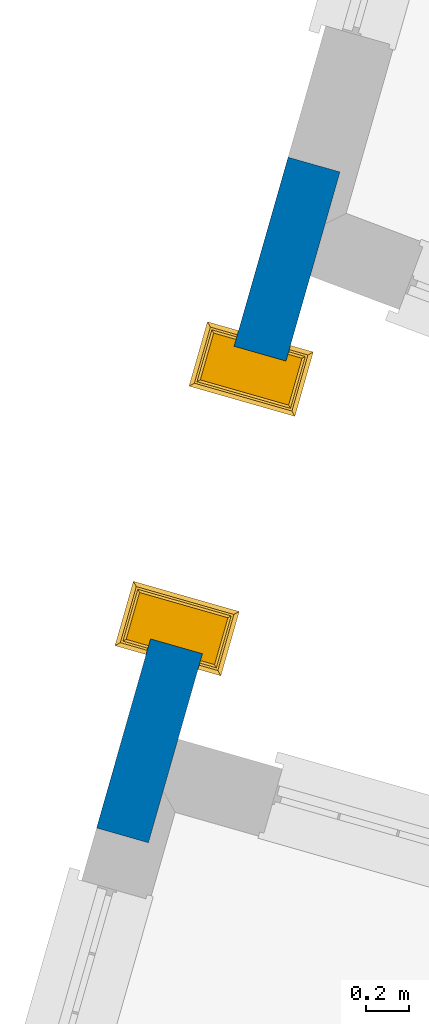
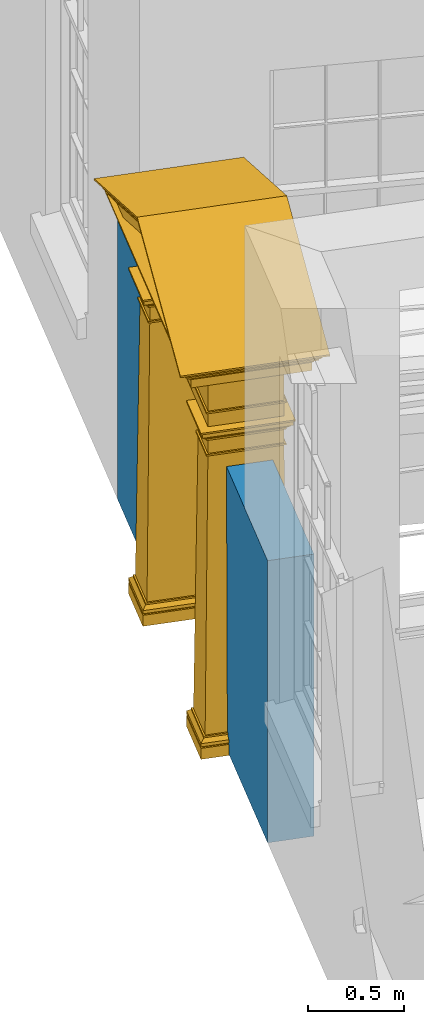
# One storey, part 4 of 6: 1 door, 1 wall, 1 opening.
"""IFC4 building model written with IfcOpenShell, lengths in metres."""

import ifcopenshell
import ifcopenshell.guid

model = None  # the IFC model being written
_history = None  # IfcOwnerHistory: only IFC2X3 demands one
_inside = {}  # id of a spatial element -> (the spatial element, [elements in it])
_under = {}  # id of a project, library or spatial element -> (it, [spatial elements below it])
_declared = {}  # id of a project -> (the project, [libraries it declares])
_typed = {}  # id of a type object -> (the type object, [elements of that type])
_made_of = {}  # id of a material, layer set ... -> (it, [elements and type objects made of it])


def new_model(schema):
    """Start an empty IFC model of exactly this schema.

    Asked for "IFC4X3", IfcOpenShell would pick the latest addendum, in which some entities
    have other attributes; the version numbers below select the first issue.
    IFC2X3 requires an IfcOwnerHistory on every rooted entity: one is made here for all.
    """
    global model, _history
    if schema == "IFC4X3":
        model = ifcopenshell.file(schema_version=(4, 3, 0, 0))
    else:
        model = ifcopenshell.file(schema=schema)
    _inside.clear()
    _under.clear()
    _declared.clear()
    _typed.clear()
    _made_of.clear()
    _history = None
    if model.schema == "IFC2X3":
        org = make("IfcOrganization", Name="unknown")
        user = make(
            "IfcPersonAndOrganization",
            ThePerson=make("IfcPerson", FamilyName="unknown"),
            TheOrganization=org,
        )
        app = make(
            "IfcApplication",
            ApplicationDeveloper=org,
            Version="unknown",
            ApplicationFullName="unknown",
            ApplicationIdentifier="unknown",
        )
        _history = make(
            "IfcOwnerHistory",
            OwningUser=user,
            OwningApplication=app,
            ChangeAction="ADDED",
            CreationDate=0,
        )
    return model


def make(cls, **values):
    """One entity of the class cls with the attributes given. An attribute that is None is left unset."""
    return model.create_entity(
        cls, **{name: value for name, value in values.items() if value is not None}
    )


def rooted(cls, **values):
    """An entity with a GlobalId (a new one), such as an element, a storey or a relation."""
    return make(cls, GlobalId=ifcopenshell.guid.new(), OwnerHistory=_history, **values)


def si_unit(unit_type, name, prefix=None):
    """IfcSIUnit, for example si_unit("LENGTHUNIT", "METRE", prefix="MILLI")."""
    return make("IfcSIUnit", UnitType=unit_type, Prefix=prefix, Name=name)


def assignment(units):
    """IfcUnitAssignment: the units of a project."""
    return None if units is None else make("IfcUnitAssignment", Units=units)


def point(xyz):
    """IfcCartesianPoint."""
    return None if xyz is None else make("IfcCartesianPoint", Coordinates=xyz)


def direction(xyz):
    """IfcDirection."""
    return None if xyz is None else make("IfcDirection", DirectionRatios=xyz)


def frame(location, z_axis=None, x_axis=None):
    """IfcAxis2Placement3D, a coordinate frame: its origin and axes. An axis left out is left unset."""
    return make(
        "IfcAxis2Placement3D",
        Location=point(location),
        Axis=direction(z_axis),
        RefDirection=direction(x_axis),
    )


def origin():
    """The frame at (0, 0, 0) with its axes left unset."""
    return frame((0.0, 0.0, 0.0))


def origin_with_axes():
    """The frame at (0, 0, 0) with the z axis (0, 0, 1) and the x axis (1, 0, 0) written out."""
    return frame((0.0, 0.0, 0.0), z_axis=(0.0, 0.0, 1.0), x_axis=(1.0, 0.0, 0.0))


def place(relative_to, where):
    """IfcLocalPlacement: puts the frame where relative to a parent placement (None: the world)."""
    return make(
        "IfcLocalPlacement", PlacementRelTo=relative_to, RelativePlacement=where
    )


def context(
    kind, dimensions, precision=None, world=None, true_north=None, identifier=None
):
    """IfcGeometricRepresentationContext, for example the 3D "Model" context."""
    return make(
        "IfcGeometricRepresentationContext",
        ContextIdentifier=identifier,
        ContextType=kind,
        CoordinateSpaceDimension=dimensions,
        Precision=precision,
        WorldCoordinateSystem=world,
        TrueNorth=true_north,
    )


def subcontext(parent, identifier, kind, view, scale=None):
    """IfcGeometricRepresentationSubContext, for example "Body" below "Model"."""
    return make(
        "IfcGeometricRepresentationSubContext",
        ContextIdentifier=identifier,
        ContextType=kind,
        ParentContext=parent,
        TargetScale=scale,
        TargetView=view,
    )


def project(units=None, contexts=None):
    """IfcProject with its units and contexts."""
    return rooted(
        "IfcProject",
        Name="project",
        RepresentationContexts=contexts,
        UnitsInContext=assignment(units),
    )


def spatial(cls, under=None, at=None, **own):
    """A site, building, storey or space (cls), placed at a placement, below another one or the project."""
    s = rooted(cls, ObjectPlacement=at, **own)
    if under is not None:
        _under.setdefault(under.id(), (under, []))[1].append(s)
    return s


def polyline(points):
    """IfcPolyline through the points."""
    return make("IfcPolyline", Points=[point(p) for p in points])


def outline(outer, holes=None, kind="AREA"):
    """IfcArbitraryClosedProfileDef: a profile drawn as a closed curve; with holes, ...WithVoids."""
    if holes is None:
        return make("IfcArbitraryClosedProfileDef", ProfileType=kind, OuterCurve=outer)
    return make(
        "IfcArbitraryProfileDefWithVoids",
        ProfileType=kind,
        OuterCurve=outer,
        InnerCurves=holes,
    )


def extrude(swept, where, along, depth):
    """IfcExtrudedAreaSolid: the profile swept, set in the frame where, extruded along a direction by depth."""
    return make(
        "IfcExtrudedAreaSolid",
        SweptArea=swept,
        Position=where,
        ExtrudedDirection=direction(along),
        Depth=depth,
    )


def faces_of(points, faces, orient=None, outer=None):
    """IfcFace entities. A face is a list of loops; a loop is a list of indices into points, from 0.

    orient and outer hold one flag for each loop. By default every Orientation is true, the
    first loop of a face is its IfcFaceOuterBound and the others are IfcFaceBound.
    """
    made = []
    for i, loops in enumerate(faces):
        bounds = []
        for j, loop in enumerate(loops):
            is_outer = j == 0 if outer is None else outer[i][j]
            bounds.append(
                make(
                    "IfcFaceOuterBound" if is_outer else "IfcFaceBound",
                    Bound=make("IfcPolyLoop", Polygon=[points[k] for k in loop]),
                    Orientation=True if orient is None else orient[i][j],
                )
            )
        made.append(make("IfcFace", Bounds=bounds))
    return made


def faceted_brep(points, faces, orient=None, outer=None, voids=None):
    """IfcFacetedBrep: a solid bounded by flat faces; with voids (closed shells), ...WithVoids."""
    shared = [point(p) for p in points]
    hull = make("IfcClosedShell", CfsFaces=faces_of(shared, faces, orient, outer))
    if voids is None:
        return make("IfcFacetedBrep", Outer=hull)
    return make(
        "IfcFacetedBrepWithVoids",
        Outer=hull,
        Voids=[
            make(cls, CfsFaces=faces_of(shared, fs, o, b)) for cls, fs, o, b in voids
        ],
    )


def shape(context_of_items, identifier, shape_type, items):
    """IfcShapeRepresentation: the items that make up one representation, for example the "Body"."""
    return make(
        "IfcShapeRepresentation",
        ContextOfItems=context_of_items,
        RepresentationIdentifier=identifier,
        RepresentationType=shape_type,
        Items=items,
    )


def source(mapping_origin, context_of_items, identifier, shape_type, items):
    """IfcRepresentationMap: a shape defined once, which mapped items show again and again."""
    return make(
        "IfcRepresentationMap",
        MappingOrigin=mapping_origin,
        MappedRepresentation=shape(context_of_items, identifier, shape_type, items),
    )


def transform(
    local_origin,
    x_axis=None,
    y_axis=None,
    z_axis=None,
    scale=None,
    scale2=None,
    scale3=None,
    uniform=True,
):
    """IfcCartesianTransformationOperator3D, or its non-uniform kind. x_axis, y_axis, z_axis: its Axis1, 2, 3."""
    if uniform:
        return make(
            "IfcCartesianTransformationOperator3D",
            Axis1=direction(x_axis),
            Axis2=direction(y_axis),
            LocalOrigin=point(local_origin),
            Scale=scale,
            Axis3=direction(z_axis),
        )
    return make(
        "IfcCartesianTransformationOperator3DnonUniform",
        Axis1=direction(x_axis),
        Axis2=direction(y_axis),
        LocalOrigin=point(local_origin),
        Scale=scale,
        Axis3=direction(z_axis),
        Scale2=scale2,
        Scale3=scale3,
    )


def mapped(mapping_source, mapping_target):
    """IfcMappedItem: shows the shape of a source again, moved by a transform."""
    return make(
        "IfcMappedItem", MappingSource=mapping_source, MappingTarget=mapping_target
    )


def material(Name=None, Category=None):
    """IfcMaterial."""
    return make("IfcMaterial", Name=Name, Category=Category)


def layer(
    of_material, thickness, ventilated=None, Name=None, Category=None, Priority=None
):
    """IfcMaterialLayer: one layer of a wall or slab, of a material (None: an air gap)."""
    return make(
        "IfcMaterialLayer",
        Material=of_material,
        LayerThickness=thickness,
        IsVentilated=ventilated,
        Name=Name,
        Category=Category,
        Priority=Priority,
    )


def layer_set(layers, Name=None):
    """IfcMaterialLayerSet."""
    return make("IfcMaterialLayerSet", MaterialLayers=layers, LayerSetName=Name)


def layer_usage(for_layer_set, set_direction, sense, offset, extent=None):
    """IfcMaterialLayerSetUsage: how a layer set lies in its element."""
    return make(
        "IfcMaterialLayerSetUsage",
        ForLayerSet=for_layer_set,
        LayerSetDirection=set_direction,
        DirectionSense=sense,
        OffsetFromReferenceLine=offset,
        ReferenceExtent=extent,
    )


def made_of(thing, what):
    """Note that an element or type object is made of a material, layer set ...; save() writes the relation."""
    if what is not None:
        _made_of.setdefault(what.id(), (what, []))[1].append(thing)
    return thing


def type_object(cls, material=None, **own):
    """A type object (cls), such as IfcWallType, which elements share."""
    return made_of(rooted(cls, **own), material)


def type_shapes(of_type, sources):
    """Give a type object the sources (RepresentationMaps) that its elements show as mapped items."""
    of_type.RepresentationMaps = sources


def element(
    cls,
    number,
    at=None,
    inside=None,
    cuts=None,
    type_object=None,
    material=None,
    context=None,
    identifier="Body",
    shape_type=None,
    held_by="IfcProductDefinitionShape",
    body=None,
    shapes=None,
    **own,
):
    """One element of the class cls, such as IfcWall. Its Tag is "e" and its number.

    at: its placement. inside: the storey or other place that contains it. cuts: it is an
    opening in that element (IfcRelVoidsElement). A single representation is given by context,
    identifier, shape_type and body (its items); several are given by shapes. held_by: the class
    of the entity that holds the representations. save() writes the other relations.
    """
    e = rooted(cls, Tag="e%d" % number, ObjectPlacement=at, **own)
    if body is not None:
        shapes = [shape(context, identifier, shape_type, body)]
    if shapes is not None:
        e.Representation = make(held_by, Representations=shapes)
    if inside is not None:
        _inside.setdefault(inside.id(), (inside, []))[1].append(e)
    if cuts is not None:
        rooted(
            "IfcRelVoidsElement", RelatingBuildingElement=cuts, RelatedOpeningElement=e
        )
    if type_object is not None:
        _typed.setdefault(type_object.id(), (type_object, []))[1].append(e)
    return made_of(e, material)


def fill(opening, filler):
    """IfcRelFillsElement: the door or window that sits in an opening."""
    return rooted(
        "IfcRelFillsElement",
        RelatingOpeningElement=opening,
        RelatedBuildingElement=filler,
    )


def aggregate(whole, parts):
    """IfcRelAggregates: a whole, such as a stair, and the parts it consists of."""
    return rooted("IfcRelAggregates", RelatingObject=whole, RelatedObjects=parts)


def save(model, path):
    """Write the relations noted so far, then the file.

    IfcRelAggregates (storeys below a building ...), IfcRelContainedInSpatialStructure (elements
    in a storey), IfcRelDefinesByType, IfcRelAssociatesMaterial and IfcRelDeclares: one each for
    every whole, place, type object, material and project.
    """
    for whole, parts in _under.values():
        aggregate(whole, parts)
    for where, things in _inside.values():
        rooted(
            "IfcRelContainedInSpatialStructure",
            RelatedElements=things,
            RelatingStructure=where,
        )
    for kind, things in _typed.values():
        rooted("IfcRelDefinesByType", RelatedObjects=things, RelatingType=kind)
    for what, things in _made_of.values():
        rooted("IfcRelAssociatesMaterial", RelatedObjects=things, RelatingMaterial=what)
    for by, libraries in _declared.values():
        rooted("IfcRelDeclares", RelatingContext=by, RelatedDefinitions=libraries)
    model.write(path)


model = new_model("IFC4")

# Units and contexts
model_context = context("Model", 3, world=origin_with_axes())
body_context = subcontext(model_context, "Body", "Model", "MODEL_VIEW")
ifc_project = project(units=[si_unit("PLANEANGLEUNIT", "RADIAN"), si_unit("MASSUNIT", "GRAM", prefix="KILO"), si_unit("FORCEUNIT", "NEWTON", prefix="KILO"), si_unit("LENGTHUNIT", "METRE"), si_unit("AREAUNIT", "SQUARE_METRE"), si_unit("VOLUMEUNIT", "CUBIC_METRE")], contexts=[model_context, model_context])

# Sites, building, storey
site_1_placement = place(None, origin_with_axes())
site_1 = spatial("IfcSite", under=ifc_project, at=site_1_placement, Name="Tamar")
site_2_placement = place(site_1_placement, origin_with_axes())
site_2 = spatial("IfcSite", under=site_1, at=site_2_placement, Name="Site plot-19", CompositionType="ELEMENT")
building_placement = place(None, origin_with_axes())
building = spatial("IfcBuilding", under=site_2, at=building_placement, Name="Building plot-19", CompositionType="ELEMENT")
storey_placement = place(None, frame((0.0, 0.0, 26.8), z_axis=(0.0, 0.0, 1.0), x_axis=(1.0, 0.0, 0.0)))
storey = spatial("IfcBuildingStorey", under=building, at=storey_placement, Name="plot-19 0", CompositionType="ELEMENT", Elevation=26.8)

# Wall, opening, door
ifc_material = material(Name="Masonry")
ifc_layer = layer(ifc_material, 0.25, ventilated=False)
ifc_layer_set = layer_set([ifc_layer], Name="fence_0_0.25")
ifc_layer_usage = layer_usage(ifc_layer_set, "AXIS2", "POSITIVE", -0.25)
wall_type = type_object("IfcWallType", Name="fence_0_0.25", PredefinedType="SOLIDWALL", material=ifc_layer_set)
wall_placement = place(storey_placement, frame((277.125139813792, 301.7223765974, 0.0), z_axis=(0.0, 0.0, 1.0), x_axis=(-0.274568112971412, -0.961567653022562, 0.0)))
wall = element("IfcWall", 1, at=wall_placement, inside=storey, type_object=wall_type, material=ifc_layer_usage, Name="fence", context=body_context, shape_type="SweptSolid", body=[
    extrude(outline(polyline([(-0.249999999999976, -1.26871586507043e-14), (-0.249999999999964, -0.249999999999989), (2.98213899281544, -0.249999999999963), (2.98213899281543, 1.32433574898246e-14), (-0.249999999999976, -1.26871586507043e-14)])), origin_with_axes(), (0.0, 0.0, 1.0), 1.8),
])
opening_placement = place(wall_placement, frame((0.661069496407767, 0.0, -0.0100000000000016)))
opening = element("IfcOpeningElement", 2, at=opening_placement, cuts=wall, Name="My Opening", ObjectType="Opening", context=body_context, shape_type="SweptSolid", body=[
    extrude(outline(polyline([(0.0, -0.270000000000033), (1.40999999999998, -0.269999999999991), (1.40999999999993, 1.01999999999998), (-4.6074255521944e-14, 1.01999999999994), (0.0, -0.270000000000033)])), origin_with_axes(), (0.0, 0.0, 1.0), 1.81),
])
door_type = type_object("IfcDoorType", Name="gate", OperationType="SINGLE_SWING_LEFT", PredefinedType="NOTDEFINED")
shared_shape = source(origin(), body_context, "Body", "Brep", [
    faceted_brep([(1.565, 0.25, 2.5), (1.565, -0.21, 2.5), (1.565, -0.21, 2.49), (1.565, 0.25, 2.49), (1.445, -0.09, 2.01), (1.215, -0.09, 2.01), (1.215, -0.09, 2.0), (1.445, -0.09, 2.0), (-0.035, -0.09, 2.180001), (-0.025, -0.08, 2.180001), (-0.025, 0.25, 2.180001), (-0.035, 0.25, 2.180001), (-0.025, -0.08, 2.170001), (-0.035, -0.09, 2.170001), (-0.035, 0.25, 2.170001), (-0.025, 0.25, 2.170001), (1.445, -0.09, 2.180001), (1.435, -0.08, 2.180001), (-0.025, -0.08, 2.37), (-0.025, 0.25, 2.37), (1.435, -0.08, 2.170001), (1.445, -0.09, 2.170001), (-0.025, -0.08, 2.08), (-0.025, 0.25, 2.08), (1.445, 0.25, 2.180001), (1.435, 0.25, 2.180001), (1.435, -0.08, 2.37), (-0.035, -0.09, 2.37), (-0.035, 0.25, 2.37), (1.435, 0.25, 2.37), (1.445, 0.25, 2.170001), (1.435, 0.25, 2.170001), (0.235, -0.08, 2.08), (0.235, 0.25, 2.08), (1.175, 0.25, 2.08), (1.175, -0.08, 2.08), (-0.075, 0.25, 2.08), (-0.075, -0.13, 2.08), (1.445, -0.09, 2.37), (-0.035, -0.09, 2.380001), (-0.035, 0.25, 2.380001), (1.445, 0.25, 2.37), (1.435, -0.08, 2.08), (1.435, 0.25, 2.08), (0.235, 0.38, 2.07), (0.235, 0.38, 2.08), (0.235, 0.33, 2.08), (0.235, -0.13, 2.08), (-0.075, 0.25, 2.07), (-0.075, -0.13, 2.07), (1.445, -0.09, 2.380001), (-0.045, -0.1, 2.39), (-0.045, 0.25, 2.39), (1.455, 0.25, 2.39), (1.455, -0.1, 2.39), (1.445, 0.25, 2.380001), (1.485, -0.13, 2.08), (1.485, 0.25, 2.08), (0.235, -0.13, 2.07), (1.175, -0.13, 2.08), (-0.065, 0.25, 2.07), (-0.065, -0.12, 2.07), (-0.055, -0.11, 2.39), (-0.055, 0.25, 2.39), (1.465, 0.25, 2.39), (1.465, -0.11, 2.39), (1.485, 0.25, 2.07), (1.485, -0.13, 2.07), (0.225, 0.25, 2.07), (0.235, 0.25, 2.07), (0.225, -0.12, 2.07), (-0.065, 0.25, 2.04), (-0.065, -0.12, 2.04), (1.475, 0.25, 2.07), (1.475, -0.12, 2.07), (1.175, 0.25, 2.07), (1.185, 0.25, 2.07), (1.185, -0.12, 2.07), (1.175, -0.13, 2.07), (1.175, 0.33, 2.08), (1.175, 0.38, 2.07), (-0.055, -0.11, 2.4), (-0.055, 0.25, 2.4), (1.465, 0.25, 2.4), (1.465, -0.11, 2.4), (0.225, 0.25, 2.04), (0.225, -0.12, 2.04), (-0.055, 0.25, 2.04), (-0.055, -0.11, 2.04), (1.475, 0.25, 2.04), (1.475, -0.12, 2.04), (1.185, 0.25, 2.04), (1.195, 0.25, 2.04), (1.195, -0.11, 2.04), (1.185, -0.12, 2.04), (-0.065, -0.12, 2.4), (-0.065, 0.25, 2.4), (-0.085, -0.14, 2.42), (-0.085, 0.25, 2.42), (-0.085, -0.14, 2.43), (-0.085, 0.25, 2.43), (1.495, 0.25, 2.43), (1.495, -0.14, 2.43), (1.495, -0.14, 2.42), (1.495, 0.25, 2.42), (1.475, 0.25, 2.4), (1.475, -0.12, 2.4), (0.215, 0.25, 2.04), (0.215, -0.11, 2.04), (-0.055, 0.25, 2.03), (-0.055, -0.11, 2.03), (0.215, 0.25, 2.03), (0.215, -0.11, 2.03), (1.465, 0.25, 2.04), (1.465, -0.11, 2.04), (1.195, 0.25, 2.03), (1.195, -0.11, 2.03), (1.465, 0.25, 2.03), (1.465, -0.11, 2.03), (-0.145, -0.2, 2.43), (-0.145, 0.25, 2.43), (1.555, 0.25, 2.43), (1.555, -0.2, 2.43), (-0.035, 0.25, 2.01), (-0.035, -0.09, 2.01), (0.195, 0.25, 2.01), (0.195, -0.09, 2.01), (1.215, 0.25, 2.01), (1.445, 0.25, 2.01), (-0.145, -0.2, 2.49), (-0.145, 0.25, 2.49), (1.555, 0.25, 2.49), (1.555, -0.2, 2.49), (-0.035, 0.25, 2.0), (-0.035, -0.09, 2.0), (0.195, 0.25, 2.0), (0.195, -0.09, 2.0), (1.215, 0.25, 2.0), (1.445, 0.25, 2.0), (-0.155, -0.21, 2.49), (-0.155, 0.25, 2.49), (-0.155, -0.21, 2.5), (-0.155, 0.25, 2.5), (-0.165, -0.22, 2.51), (-0.165, 0.25, 2.51), (1.575, 0.25, 2.51), (1.575, -0.22, 2.51), (-0.025, -0.08, 2.0), (-0.025, 0.25, 2.0), (0.185, -0.08, 2.0), (0.185, 0.25, 2.0), (-0.025, 0.25, 1.91), (-0.025, -0.08, 1.91), (0.185, 0.25, 1.91), (0.185, -0.08, 1.91), (1.225, 0.25, 2.0), (1.225, -0.08, 2.0), (1.435, -0.08, 2.0), (1.435, 0.25, 2.0), (1.435, 0.25, 1.91), (1.435, -0.08, 1.91), (1.225, 0.25, 1.91), (1.225, -0.08, 1.91), (-0.175, -0.23, 2.51), (-0.175, 0.25, 2.51), (1.585, 0.25, 2.51), (1.585, -0.23, 2.51), (-0.035, 0.25, 1.91), (-0.035, -0.09, 1.91), (0.195, -0.09, 1.91), (0.195, 0.25, 1.91), (1.445, -0.09, 1.91), (1.445, 0.25, 1.91), (1.215, -0.09, 1.91), (1.215, 0.25, 1.91), (-0.175, -0.23, 2.52), (-0.175, 0.25, 2.52), (1.585, 0.25, 2.52), (1.585, -0.23, 2.52), (-0.035, 0.25, 1.9), (-0.035, -0.09, 1.9), (0.195, 0.25, 1.9), (0.195, -0.09, 1.9), (-0.025, -0.08, 1.9), (-0.025, 0.25, 1.9), (0.185, -0.08, 1.9), (0.185, 0.25, 1.9), (-0.045, 0.25, 0.13), (-0.045, -0.1, 0.13), (0.205, 0.25, 0.13), (0.205, -0.1, 0.13), (1.445, -0.09, 1.9), (1.445, 0.25, 1.9), (1.435, -0.08, 1.9), (1.435, 0.25, 1.9), (1.455, -0.1, 0.13), (1.455, 0.25, 0.13), (1.225, 0.25, 1.9), (1.205, 0.25, 0.13), (1.205, -0.1, 0.13), (1.225, -0.08, 1.9), (1.215, -0.09, 1.9), (1.215, 0.25, 1.9), (-0.185, -0.24, 2.526), (-0.185, 0.25, 2.526), (-0.150858, -0.23, 2.52), (1.560858, -0.23, 2.52), (-0.195, -0.25, 2.551001), (-0.195, 0.25, 2.551001), (-0.223, 0.25, 2.561001), (-0.223, -0.278, 2.561001), (1.633, -0.278, 2.561001), (1.605, -0.25, 2.551001), (1.605, 0.25, 2.551001), (1.633, 0.25, 2.561001), (1.595, 0.25, 2.526), (1.595, -0.24, 2.526), (-0.055, 0.25, 0.13), (-0.055, -0.11, 0.13), (0.215, 0.25, 0.13), (0.215, -0.11, 0.13), (1.465, -0.11, 0.13), (1.465, 0.25, 0.13), (1.195, 0.25, 0.13), (1.195, -0.11, 0.13), (0.705, -0.23, 2.884508), (0.705, -0.24, 2.89465), (0.705, -0.23, 2.874508), (1.486538, -0.21, 2.522499), (-0.076538, -0.21, 2.522499), (0.705, -0.25, 2.923792), (0.705, -0.278, 2.945389), (-0.223, -0.278, 2.571001), (-0.223, 0.25, 2.571001), (1.633, 0.25, 2.571001), (1.633, -0.278, 2.571001), (-0.055, 0.25, 0.12), (-0.055, -0.11, 0.12), (0.215, 0.25, 0.12), (0.215, -0.11, 0.12), (-0.075, 0.25, 0.1), (-0.075, -0.13, 0.1), (0.235, 0.25, 0.1), (0.235, -0.13, 0.1), (1.465, 0.25, 0.12), (1.465, -0.11, 0.12), (1.485, 0.25, 0.1), (1.485, -0.13, 0.1), (1.195, 0.25, 0.12), (1.175, 0.25, 0.1), (1.175, -0.13, 0.1), (1.195, -0.11, 0.12), (-0.13784, -0.22, 2.52125), (0.705, -0.22, 2.870365), (1.51068, -0.21, 2.522499), (1.54784, -0.22, 2.52125), (1.316733, -0.2, 2.523749), (0.093267, -0.2, 2.523749), (-0.10068, -0.21, 2.522499), (0.705, -0.278, 2.955389), (0.705, 0.25, 2.955389), (-0.075, 0.25, 0.08), (-0.075, -0.13, 0.08), (0.235, 0.25, 0.08), (0.235, -0.13, 0.08), (1.485, -0.13, 0.08), (1.485, 0.25, 0.08), (1.175, 0.25, 0.08), (1.175, -0.13, 0.08), (0.705, -0.21, 2.856223), (0.705, -0.21, 2.846222), (1.272495, -0.14, 2.53125), (0.137505, -0.14, 2.53125), (-0.06352, -0.2, 2.523749), (1.47352, -0.2, 2.523749), (-0.065, 0.25, 0.07), (-0.065, -0.12, 0.07), (0.225, 0.25, 0.07), (0.225, -0.12, 0.07), (1.475, 0.25, 0.07), (1.475, -0.12, 0.07), (1.185, 0.25, 0.07), (1.185, -0.12, 0.07), (0.705, -0.2, 2.842082), (1.298626, -0.14, 2.53125), (1.214197, -0.12, 2.533749), (0.195803, -0.12, 2.533749), (0.111374, -0.14, 2.53125), (0.705, -0.2, 2.777137), (-0.075, 0.25, 0.07), (-0.075, -0.13, 0.07), (0.235, -0.13, 0.07), (0.235, 0.25, 0.07), (0.235, -0.13, 0.0), (-0.075, -0.13, 0.0), (-0.075, 0.25, 0.0), (0.235, 0.25, 0.0), (1.485, -0.13, 0.07), (1.485, 0.25, 0.07), (1.485, -0.13, 0.0), (1.175, -0.13, 0.0), (1.175, 0.25, 0.0), (1.485, 0.25, 0.0), (1.175, -0.13, 0.07), (1.175, 0.25, 0.07), (0.705, -0.14, 2.766314), (0.705, -0.14, 2.777137), (0.705, -0.12, 2.744666), (1.185048, -0.11, 2.535), (0.224952, -0.11, 2.535), (0.705, -0.11, 2.744666), (1.211179, -0.11, 2.535), (1.12675, -0.09, 2.537501), (0.28325, -0.09, 2.537501), (0.198821, -0.11, 2.535), (0.705, -0.11, 2.733843), (1.152881, -0.09, 2.537501), (1.18203, -0.1, 2.536251), (0.286268, -0.08, 2.538751), (1.123732, -0.08, 2.538751), (0.22797, -0.1, 2.536251), (0.257119, -0.09, 2.537501), (0.705, -0.1, 2.733843), (0.705, -0.09, 2.712194), (0.705, -0.09, 2.723017), (0.705, -0.08, 2.712194), (-0.155, 0.46, 2.5), (-0.155, 0.46, 2.49), (-0.035, 0.34, 2.01), (0.195, 0.34, 2.01), (0.195, 0.34, 2.0), (-0.035, 0.34, 2.0), (1.445, 0.34, 2.180001), (1.435, 0.33, 2.180001), (1.435, 0.33, 2.170001), (1.445, 0.34, 2.170001), (-0.035, 0.34, 2.180001), (-0.025, 0.33, 2.180001), (1.435, 0.33, 2.37), (-0.025, 0.33, 2.170001), (-0.035, 0.34, 2.170001), (1.435, 0.33, 2.08), (-0.025, 0.33, 2.37), (1.445, 0.34, 2.37), (1.485, 0.38, 2.08), (-0.035, 0.34, 2.37), (1.445, 0.34, 2.380001), (-0.025, 0.33, 2.08), (1.175, 0.38, 2.08), (1.485, 0.38, 2.07), (-0.035, 0.34, 2.380001), (1.455, 0.35, 2.39), (-0.045, 0.35, 2.39), (-0.075, 0.38, 2.08), (1.475, 0.37, 2.07), (1.465, 0.36, 2.39), (-0.055, 0.36, 2.39), (-0.075, 0.38, 2.07), (1.185, 0.37, 2.07), (1.475, 0.37, 2.04), (-0.065, 0.37, 2.07), (0.225, 0.37, 2.07), (1.465, 0.36, 2.4), (-0.055, 0.36, 2.4), (1.185, 0.37, 2.04), (1.465, 0.36, 2.04), (-0.065, 0.37, 2.04), (0.215, 0.36, 2.04), (0.225, 0.37, 2.04), (1.475, 0.37, 2.4), (1.495, 0.39, 2.42), (1.495, 0.39, 2.43), (-0.085, 0.39, 2.43), (-0.085, 0.39, 2.42), (-0.065, 0.37, 2.4), (1.195, 0.36, 2.04), (1.465, 0.36, 2.03), (1.195, 0.36, 2.03), (-0.055, 0.36, 2.04), (0.215, 0.36, 2.03), (-0.055, 0.36, 2.03), (1.555, 0.45, 2.43), (-0.145, 0.45, 2.43), (1.445, 0.34, 2.01), (1.215, 0.34, 2.01), (1.555, 0.45, 2.49), (-0.145, 0.45, 2.49), (1.445, 0.34, 2.0), (1.215, 0.34, 2.0), (1.565, 0.46, 2.49), (1.565, 0.46, 2.5), (1.575, 0.47, 2.51), (-0.165, 0.47, 2.51), (1.435, 0.33, 2.0), (1.225, 0.33, 2.0), (1.435, 0.33, 1.91), (1.225, 0.33, 1.91), (0.185, 0.33, 2.0), (-0.025, 0.33, 2.0), (-0.025, 0.33, 1.91), (0.185, 0.33, 1.91), (1.585, 0.48, 2.51), (-0.175, 0.48, 2.51), (1.445, 0.34, 1.91), (1.215, 0.34, 1.91), (-0.035, 0.34, 1.91), (0.195, 0.34, 1.91), (1.585, 0.48, 2.52), (-0.175, 0.48, 2.52), (1.445, 0.34, 1.9), (1.215, 0.34, 1.9), (1.435, 0.33, 1.9), (1.225, 0.33, 1.9), (1.455, 0.35, 0.13), (1.205, 0.35, 0.13), (-0.035, 0.34, 1.9), (-0.025, 0.33, 1.9), (-0.045, 0.35, 0.13), (0.205, 0.35, 0.13), (0.185, 0.33, 1.9), (0.195, 0.34, 1.9), (1.595, 0.49, 2.526), (1.560858, 0.48, 2.52), (-0.150858, 0.48, 2.52), (1.605, 0.5, 2.551001), (1.633, 0.528, 2.561001), (-0.223, 0.528, 2.561001), (-0.195, 0.5, 2.551001), (-0.185, 0.49, 2.526), (1.465, 0.36, 0.13), (1.195, 0.36, 0.13), (-0.055, 0.36, 0.13), (0.215, 0.36, 0.13), (0.705, 0.48, 2.884508), (0.705, 0.49, 2.89465), (0.705, 0.48, 2.874508), (-0.076538, 0.46, 2.522499), (1.486538, 0.46, 2.522499), (0.705, 0.5, 2.923792), (0.705, 0.528, 2.945389), (1.633, 0.528, 2.571001), (-0.223, 0.528, 2.571001), (1.465, 0.36, 0.12), (1.195, 0.36, 0.12), (1.485, 0.38, 0.1), (1.175, 0.38, 0.1), (-0.055, 0.36, 0.12), (-0.075, 0.38, 0.1), (0.235, 0.38, 0.1), (0.215, 0.36, 0.12), (1.54784, 0.47, 2.52125), (0.705, 0.47, 2.870365), (-0.10068, 0.46, 2.522499), (-0.13784, 0.47, 2.52125), (0.093267, 0.45, 2.523749), (1.316733, 0.45, 2.523749), (1.51068, 0.46, 2.522499), (0.705, 0.528, 2.955389), (1.485, 0.38, 0.08), (1.175, 0.38, 0.08), (-0.075, 0.38, 0.08), (0.235, 0.38, 0.08), (0.705, 0.46, 2.856223), (0.705, 0.46, 2.846222), (0.137505, 0.39, 2.53125), (1.272495, 0.39, 2.53125), (1.47352, 0.45, 2.523749), (-0.06352, 0.45, 2.523749), (1.475, 0.37, 0.07), (1.185, 0.37, 0.07), (-0.065, 0.37, 0.07), (0.225, 0.37, 0.07), (0.705, 0.45, 2.842082), (0.111374, 0.39, 2.53125), (0.195803, 0.37, 2.533749), (1.214197, 0.37, 2.533749), (1.298626, 0.39, 2.53125), (0.705, 0.45, 2.777137), (1.485, 0.38, 0.07), (1.175, 0.38, 0.07), (1.175, 0.38, 0.0), (1.485, 0.38, 0.0), (-0.075, 0.38, 0.07), (-0.075, 0.38, 0.0), (0.235, 0.38, 0.0), (0.235, 0.38, 0.07), (0.705, 0.39, 2.766314), (0.705, 0.39, 2.777137), (0.705, 0.37, 2.744666), (0.224952, 0.36, 2.535), (1.185048, 0.36, 2.535), (0.705, 0.36, 2.744666), (0.198821, 0.36, 2.535), (0.28325, 0.34, 2.537501), (1.12675, 0.34, 2.537501), (1.211179, 0.36, 2.535), (0.705, 0.36, 2.733843), (0.257119, 0.34, 2.537501), (0.22797, 0.35, 2.536251), (1.123732, 0.33, 2.538751), (0.286268, 0.33, 2.538751), (1.18203, 0.35, 2.536251), (1.152881, 0.34, 2.537501), (0.705, 0.35, 2.733843), (0.705, 0.34, 2.723017), (0.705, 0.34, 2.712194), (0.705, 0.33, 2.712194)], [[[0, 1, 2, 3]], [[4, 5, 6, 7]], [[8, 9, 10, 11]], [[12, 13, 14, 15]], [[13, 8, 11, 14]], [[9, 8, 16, 17]], [[9, 18, 19, 10]], [[13, 12, 20, 21]], [[22, 12, 15, 23]], [[8, 13, 21, 16]], [[17, 16, 24, 25]], [[18, 9, 17, 26]], [[27, 28, 19, 18]], [[26, 17, 25, 29]], [[16, 21, 30, 24]], [[21, 20, 31, 30]], [[32, 33, 34, 35]], [[12, 32, 35, 20]], [[12, 22, 32]], [[22, 23, 36, 37]], [[27, 18, 26, 38]], [[39, 40, 28, 27]], [[41, 38, 26, 29]], [[20, 42, 43, 31]], [[44, 45, 46]], [[42, 20, 35]], [[37, 47, 32, 22]], [[36, 48, 49, 37]], [[39, 27, 38, 50]], [[51, 52, 40, 39]], [[53, 54, 50, 55]], [[55, 50, 38, 41]], [[43, 42, 56, 57]], [[32, 47, 58]], [[59, 56, 42, 35]], [[58, 47, 37, 49]], [[48, 60, 61, 49]], [[51, 39, 50, 54]], [[62, 63, 52, 51]], [[64, 65, 54, 53]], [[66, 57, 56, 67]], [[68, 69, 58, 70]], [[60, 71, 72, 61]], [[73, 66, 67, 74]], [[75, 76, 77, 78]], [[34, 79, 80, 75]], [[59, 78, 67, 56]], [[61, 70, 58, 49]], [[62, 51, 54, 65]], [[81, 82, 63, 62]], [[83, 84, 65, 64]], [[85, 68, 70, 86]], [[71, 87, 88, 72]], [[86, 70, 61, 72]], [[77, 74, 67, 78]], [[89, 73, 74, 90]], [[91, 92, 93, 94]], [[76, 91, 94, 77]], [[81, 62, 65, 84]], [[95, 96, 82, 81]], [[97, 98, 96, 95]], [[99, 100, 98, 97]], [[101, 102, 103, 104]], [[105, 106, 84, 83]], [[104, 103, 106, 105]], [[107, 85, 86, 108]], [[87, 109, 110, 88]], [[88, 108, 86, 72]], [[111, 107, 108, 112]], [[77, 94, 90, 74]], [[113, 89, 90, 114]], [[92, 115, 116, 93]], [[93, 114, 90, 94]], [[117, 113, 114, 118]], [[95, 81, 84, 106]], [[97, 95, 106, 103]], [[119, 120, 100, 99]], [[99, 97, 103, 102]], [[121, 122, 102, 101]], [[109, 123, 124, 110]], [[112, 108, 88, 110]], [[125, 111, 112, 126]], [[115, 127, 5, 116]], [[93, 116, 118, 114]], [[128, 117, 118, 4]], [[129, 130, 120, 119]], [[119, 99, 102, 122]], [[131, 132, 122, 121]], [[123, 133, 134, 124]], [[110, 124, 126, 112]], [[135, 125, 126, 136]], [[127, 137, 6, 5]], [[4, 118, 116, 5]], [[138, 128, 4, 7]], [[139, 140, 130, 129]], [[129, 119, 122, 132]], [[141, 142, 140, 139]], [[143, 144, 142, 141]], [[145, 146, 1, 0]], [[3, 2, 132, 131]], [[147, 134, 133, 148]], [[126, 124, 134, 136]], [[135, 136, 149, 150]], [[148, 151, 152, 147]], [[153, 150, 149, 154]], [[6, 137, 155, 156]], [[7, 157, 158, 138]], [[159, 158, 157, 160]], [[155, 161, 162, 156]], [[139, 129, 132, 2]], [[141, 139, 2, 1]], [[163, 164, 144, 143]], [[143, 141, 1, 146]], [[165, 166, 146, 145]], [[147, 149, 136, 134]], [[167, 168, 152, 151]], [[147, 152, 154, 149]], [[154, 169, 170, 153]], [[156, 157, 7, 6]], [[160, 157, 156, 162]], [[171, 172, 159, 160]], [[173, 162, 161, 174]], [[175, 176, 164, 163]], [[163, 143, 146, 166]], [[177, 178, 166, 165]], [[179, 180, 168, 167]], [[154, 152, 168, 169]], [[181, 170, 169, 182]], [[183, 180, 179, 184]], [[181, 182, 185, 186]], [[184, 187, 188, 183]], [[189, 186, 185, 190]], [[160, 162, 173, 171]], [[191, 192, 172, 171]], [[191, 193, 194, 192]], [[193, 195, 196, 194]], [[197, 198, 199, 200]], [[201, 202, 197, 200]], [[174, 202, 201, 173]], [[203, 204, 176, 175]], [[175, 163, 205]], [[163, 166, 206, 205]], [[207, 208, 204, 203]], [[209, 208, 207, 210]], [[211, 212, 213, 214]], [[215, 216, 178, 177]], [[213, 212, 216, 215]], [[178, 206, 166]], [[180, 182, 169, 168]], [[183, 185, 182, 180]], [[187, 217, 218, 188]], [[183, 188, 190, 185]], [[219, 189, 190, 220]], [[201, 191, 171, 173]], [[200, 193, 191, 201]], [[195, 193, 200, 199]], [[195, 221, 222, 196]], [[198, 223, 224, 199]], [[175, 225, 226, 203]], [[225, 175, 205, 227]], [[205, 206, 228, 229]], [[203, 226, 230, 207]], [[207, 230, 231, 210]], [[232, 233, 209, 210]], [[234, 235, 211, 214]], [[231, 230, 212, 211]], [[216, 226, 225, 178]], [[212, 230, 226, 216]], [[227, 206, 178, 225]], [[217, 236, 237, 218]], [[220, 190, 188, 218]], [[238, 219, 220, 239]], [[236, 240, 241, 237]], [[242, 238, 239, 243]], [[221, 195, 199, 224]], [[244, 222, 221, 245]], [[246, 244, 245, 247]], [[248, 249, 250, 251]], [[223, 248, 251, 224]], [[227, 205, 252, 253]], [[254, 228, 206, 255]], [[256, 257, 229, 228]], [[252, 205, 229, 258]], [[231, 259, 232, 210]], [[260, 233, 232, 259]], [[234, 260, 259, 235]], [[259, 231, 211, 235]], [[253, 255, 206, 227]], [[239, 220, 218, 237]], [[261, 262, 241, 240]], [[243, 239, 237, 241]], [[263, 242, 243, 264]], [[224, 251, 245, 221]], [[251, 250, 247, 245]], [[265, 266, 246, 247]], [[249, 267, 268, 250]], [[253, 252, 258, 269]], [[270, 228, 254, 269]], [[269, 254, 255, 253]], [[256, 271, 272, 257]], [[273, 229, 257]], [[274, 256, 228]], [[269, 258, 229, 270]], [[261, 275, 276, 262]], [[264, 243, 241, 262]], [[277, 263, 264, 278]], [[250, 268, 265, 247]], [[279, 266, 265, 280]], [[267, 281, 282, 268]], [[283, 274, 228, 270]], [[284, 271, 256]], [[271, 285, 286, 272]], [[287, 257, 272]], [[270, 229, 273, 283]], [[283, 273, 257, 288]], [[288, 256, 274, 283]], [[289, 290, 276, 275]], [[262, 276, 278, 264]], [[278, 291, 292, 277]], [[293, 294, 295, 296]], [[280, 265, 268, 282]], [[297, 298, 279, 280]], [[299, 300, 301, 302]], [[303, 282, 281, 304]], [[305, 271, 284, 306]], [[306, 284, 256, 288]], [[307, 285, 271, 305]], [[285, 308, 309, 286]], [[305, 272, 286, 307]], [[288, 257, 287, 306]], [[306, 287, 272, 305]], [[289, 295, 294, 290]], [[278, 276, 290, 291]], [[296, 292, 291, 293]], [[290, 294, 293, 291]], [[280, 282, 303, 297]], [[302, 298, 297, 299]], [[299, 297, 303, 300]], [[304, 301, 300, 303]], [[310, 311, 285, 307]], [[311, 308, 285]], [[308, 312, 313, 309]], [[314, 286, 309]], [[307, 286, 314, 310]], [[315, 308, 311, 310]], [[316, 312, 308, 317]], [[318, 313, 312, 319]], [[320, 309, 313, 321]], [[310, 314, 309, 315]], [[322, 317, 308, 315]], [[323, 312, 316, 324]], [[324, 316, 317, 322]], [[323, 313, 318, 325]], [[325, 319, 312, 323]], [[325, 318, 319]], [[315, 309, 320, 322]], [[324, 321, 313, 323]], [[322, 320, 321, 324]], [[142, 326, 327, 140]], [[328, 329, 330, 331]], [[332, 333, 25, 24]], [[334, 335, 30, 31]], [[335, 332, 24, 30]], [[333, 332, 336, 337]], [[333, 338, 29, 25]], [[335, 334, 339, 340]], [[341, 334, 31, 43]], [[332, 335, 340, 336]], [[337, 336, 11, 10]], [[338, 333, 337, 342]], [[343, 41, 29, 338]], [[342, 337, 10, 19]], [[336, 340, 14, 11]], [[340, 339, 15, 14]], [[79, 34, 33, 46]], [[334, 79, 46, 339]], [[334, 341, 79]], [[341, 43, 57, 344]], [[343, 338, 342, 345]], [[346, 55, 41, 343]], [[28, 345, 342, 19]], [[339, 347, 23, 15]], [[35, 34, 75, 78]], [[33, 32, 58, 69]], [[347, 339, 46]], [[344, 348, 79, 341]], [[57, 66, 349, 344]], [[346, 343, 345, 350]], [[351, 53, 55, 346]], [[52, 352, 350, 40]], [[40, 350, 345, 28]], [[23, 347, 353, 36]], [[79, 348, 80]], [[45, 353, 347, 46]], [[80, 348, 344, 349]], [[66, 73, 354, 349]], [[351, 346, 350, 352]], [[355, 64, 53, 351]], [[63, 356, 352, 52]], [[48, 36, 353, 357]], [[76, 75, 80, 358]], [[73, 89, 359, 354]], [[60, 48, 357, 360]], [[69, 68, 361, 44]], [[46, 33, 69, 44]], [[45, 44, 357, 353]], [[354, 358, 80, 349]], [[355, 351, 352, 356]], [[362, 83, 64, 355]], [[82, 363, 356, 63]], [[91, 76, 358, 364]], [[89, 113, 365, 359]], [[364, 358, 354, 359]], [[361, 360, 357, 44]], [[71, 60, 360, 366]], [[85, 107, 367, 368]], [[68, 85, 368, 361]], [[362, 355, 356, 363]], [[369, 105, 83, 362]], [[370, 104, 105, 369]], [[371, 101, 104, 370]], [[100, 372, 373, 98]], [[96, 374, 363, 82]], [[98, 373, 374, 96]], [[92, 91, 364, 375]], [[113, 117, 376, 365]], [[365, 375, 364, 359]], [[115, 92, 375, 377]], [[361, 368, 366, 360]], [[87, 71, 366, 378]], [[107, 111, 379, 367]], [[367, 378, 366, 368]], [[109, 87, 378, 380]], [[369, 362, 363, 374]], [[370, 369, 374, 373]], [[381, 121, 101, 371]], [[371, 370, 373, 372]], [[120, 382, 372, 100]], [[117, 128, 383, 376]], [[377, 375, 365, 376]], [[127, 115, 377, 384]], [[111, 125, 329, 379]], [[367, 379, 380, 378]], [[123, 109, 380, 328]], [[385, 131, 121, 381]], [[381, 371, 372, 382]], [[130, 386, 382, 120]], [[128, 138, 387, 383]], [[376, 383, 384, 377]], [[137, 127, 384, 388]], [[125, 135, 330, 329]], [[328, 380, 379, 329]], [[133, 123, 328, 331]], [[389, 3, 131, 385]], [[385, 381, 382, 386]], [[390, 0, 3, 389]], [[391, 145, 0, 390]], [[144, 392, 326, 142]], [[140, 327, 386, 130]], [[393, 387, 138, 158]], [[384, 383, 387, 388]], [[137, 388, 394, 155]], [[158, 159, 395, 393]], [[161, 155, 394, 396]], [[330, 135, 150, 397]], [[331, 398, 148, 133]], [[151, 148, 398, 399]], [[150, 153, 400, 397]], [[389, 385, 386, 327]], [[390, 389, 327, 326]], [[401, 165, 145, 391]], [[391, 390, 326, 392]], [[164, 402, 392, 144]], [[393, 394, 388, 387]], [[172, 403, 395, 159]], [[393, 395, 396, 394]], [[396, 404, 174, 161]], [[397, 398, 331, 330]], [[399, 398, 397, 400]], [[405, 167, 151, 399]], [[406, 400, 153, 170]], [[407, 177, 165, 401]], [[401, 391, 392, 402]], [[176, 408, 402, 164]], [[192, 409, 403, 172]], [[396, 395, 403, 404]], [[202, 174, 404, 410]], [[411, 409, 192, 194]], [[202, 410, 412, 197]], [[194, 196, 413, 411]], [[198, 197, 412, 414]], [[399, 400, 406, 405]], [[415, 179, 167, 405]], [[415, 416, 184, 179]], [[416, 417, 187, 184]], [[186, 189, 418, 419]], [[420, 181, 186, 419]], [[170, 181, 420, 406]], [[421, 215, 177, 407]], [[407, 401, 422]], [[401, 402, 423, 422]], [[424, 213, 215, 421]], [[214, 213, 424, 425]], [[426, 427, 208, 209]], [[204, 428, 408, 176]], [[208, 427, 428, 204]], [[408, 423, 402]], [[409, 410, 404, 403]], [[411, 412, 410, 409]], [[196, 222, 429, 413]], [[411, 413, 414, 412]], [[223, 198, 414, 430]], [[420, 415, 405, 406]], [[419, 416, 415, 420]], [[417, 416, 419, 418]], [[417, 431, 217, 187]], [[189, 219, 432, 418]], [[407, 433, 434, 421]], [[433, 407, 422, 435]], [[422, 423, 436, 437]], [[421, 434, 438, 424]], [[424, 438, 439, 425]], [[440, 234, 214, 425]], [[233, 441, 426, 209]], [[439, 438, 427, 426]], [[428, 434, 433, 408]], [[427, 438, 434, 428]], [[435, 423, 408, 433]], [[222, 244, 442, 429]], [[430, 414, 413, 429]], [[248, 223, 430, 443]], [[244, 246, 444, 442]], [[249, 248, 443, 445]], [[431, 417, 418, 432]], [[236, 217, 431, 446]], [[240, 236, 446, 447]], [[238, 242, 448, 449]], [[219, 238, 449, 432]], [[435, 422, 450, 451]], [[452, 436, 423, 453]], [[454, 455, 437, 436]], [[450, 422, 437, 456]], [[439, 457, 440, 425]], [[260, 234, 440, 457]], [[233, 260, 457, 441]], [[457, 439, 426, 441]], [[451, 453, 423, 435]], [[443, 430, 429, 442]], [[266, 458, 444, 246]], [[445, 443, 442, 444]], [[267, 249, 445, 459]], [[432, 449, 446, 431]], [[449, 448, 447, 446]], [[460, 261, 240, 447]], [[242, 263, 461, 448]], [[451, 450, 456, 462]], [[463, 436, 452, 462]], [[462, 452, 453, 451]], [[454, 464, 465, 455]], [[466, 437, 455]], [[467, 454, 436]], [[462, 456, 437, 463]], [[266, 279, 468, 458]], [[459, 445, 444, 458]], [[281, 267, 459, 469]], [[448, 461, 460, 447]], [[275, 261, 460, 470]], [[263, 277, 471, 461]], [[472, 467, 436, 463]], [[473, 464, 454]], [[464, 474, 475, 465]], [[476, 455, 465]], [[463, 437, 466, 472]], [[472, 466, 455, 477]], [[477, 454, 467, 472]], [[298, 478, 468, 279]], [[458, 468, 469, 459]], [[469, 479, 304, 281]], [[480, 481, 302, 301]], [[470, 460, 461, 471]], [[482, 289, 275, 470]], [[483, 484, 296, 295]], [[485, 471, 277, 292]], [[486, 464, 473, 487]], [[487, 473, 454, 477]], [[488, 474, 464, 486]], [[474, 489, 490, 475]], [[486, 465, 475, 488]], [[477, 455, 476, 487]], [[487, 476, 465, 486]], [[298, 302, 481, 478]], [[469, 468, 478, 479]], [[301, 304, 479, 480]], [[478, 481, 480, 479]], [[470, 471, 485, 482]], [[295, 289, 482, 483]], [[483, 482, 485, 484]], [[292, 296, 484, 485]], [[491, 492, 474, 488]], [[492, 489, 474]], [[489, 493, 494, 490]], [[495, 475, 490]], [[488, 475, 495, 491]], [[496, 489, 492, 491]], [[497, 493, 489, 498]], [[499, 494, 493, 500]], [[501, 490, 494, 502]], [[491, 495, 490, 496]], [[503, 498, 489, 496]], [[497, 504, 505, 493]], [[504, 497, 498, 503]], [[505, 494, 499, 506]], [[506, 500, 493, 505]], [[506, 499, 500]], [[496, 490, 501, 503]], [[504, 502, 494, 505]], [[503, 501, 502, 504]], [[78, 59, 35]]]),
])
type_shapes(door_type, [shared_shape])
door_placement = place(storey_placement, frame((276.684007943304, 301.160846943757, -0.0100000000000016), z_axis=(0.0, 0.0, 1.0), x_axis=(-0.387141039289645, -1.3558103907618, 0.0)))
door = element("IfcDoor", 3, at=door_placement, inside=storey, type_object=door_type, Name="house entrance gate", OverallHeight=1.81, OverallWidth=1.41, context=body_context, shape_type="MappedRepresentation", body=[
    mapped(shared_shape, transform((0.0, 0.0, 0.0), scale=1.0)),
])
fill(opening, door)

save(model, "model.ifc")
